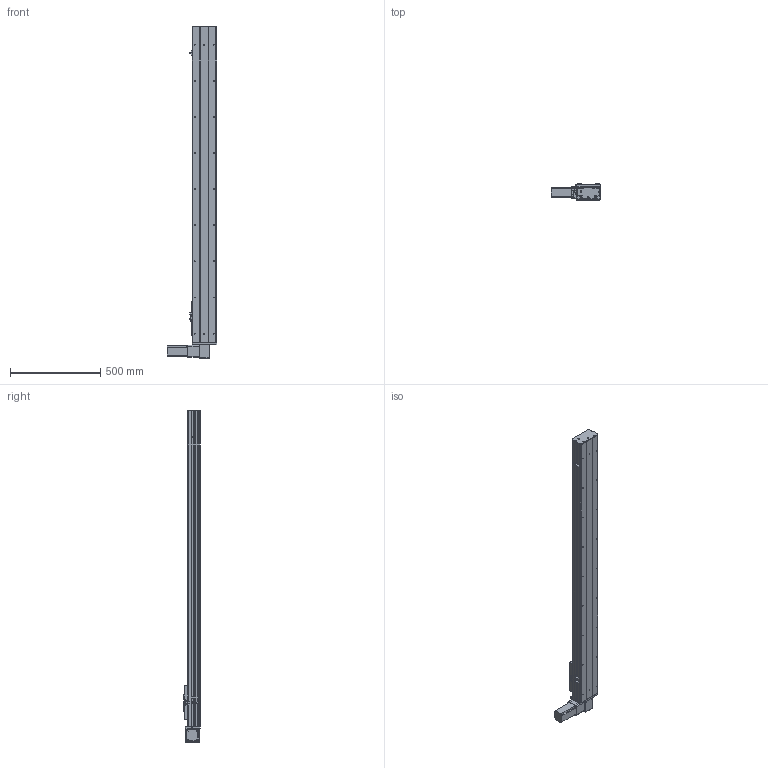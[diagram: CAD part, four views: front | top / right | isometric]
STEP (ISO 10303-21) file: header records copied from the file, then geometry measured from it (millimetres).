
FILE_DESCRIPTION (( 'STEP AP203' ), '1' );
FILE_NAME ('Y135CB-D90-S1450-BD-P400W.STEP', '2020-02-19T03:43:05', ( '微软用户' ), ( '微软中国' ), 'SwSTEP 2.0', 'SolidWorks 2017', '' );
FILE_SCHEMA (( 'CONFIG_CONTROL_DESIGN' ));
Length unit declared in the file: millimetre
Products named in the file (16): 0B-薊粣ん眊; 0B-源倛裔啣; Y135CB-D90-S1450-BD-P400W; san松下电机400不带刹车----; C-雄赽釱--; 5CB --掛极耜裔啣-; C-詩湍揤踡え-陔; 135CB--詩湍-CE; Y135CB-耜裔; Y100-135俋离換覜ん--; 135CB---遴掛极.-; Y135C-陔俋离換覜結え-; 35CB---喘謫眊楊擘啣; Y10B--々湍喘謫眊--666; 5C--俋欶; 0B-埴倛裔啣
Assembly tree (19 placements, depth 2):
  Y135CB-D90-S1450-BD-P400W
    Y135CB-耜裔
    135CB---遴掛极.-
    35CB---喘謫眊楊擘啣
    0B-埴倛裔啣
    0B-源倛裔啣
    san松下电机400不带刹车----
    5CB --掛极耜裔啣-  x2
    C-詩湍揤踡え-陔  x2
    135CB--詩湍-CE
    Y100-135俋离換覜ん--  x3
    Y135C-陔俋离換覜結え-
    5C--俋欶
    C-雄赽釱--
    Y10B--々湍喘謫眊--666
    0B-薊粣ん眊
Bounding box: 272 x 91 x 1838 mm (x, y, z)
Volume: 5555459.4 mm3; surface area: 2141606.5 mm2
Topology: 19 solids, 19 shells, 863 faces, 2302 edges, 1524 vertices
Faces by surface type: cylinder 432, plane 415, cone 16
Entity records: 26410 total; most frequent: DIRECTION 4402, CARTESIAN_POINT 4335, ORIENTED_EDGE 4080, EDGE_CURVE 2040, AXIS2_PLACEMENT_3D 1615, VERTEX_POINT 1352, LINE 1172, VECTOR 1172
